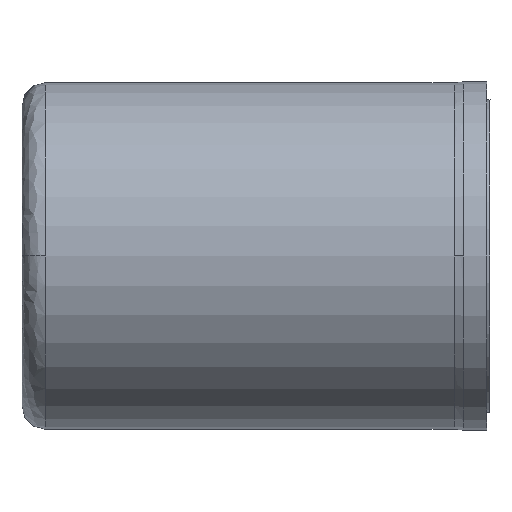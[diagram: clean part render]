
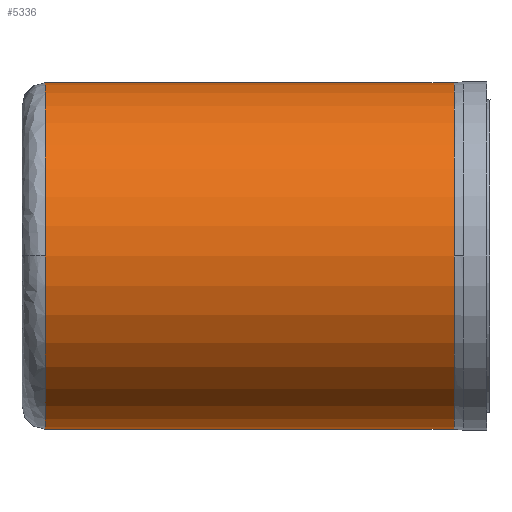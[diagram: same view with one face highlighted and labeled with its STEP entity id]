
A CAD part, front view. The second image highlights one B-rep face of the part: STEP entity #5336.
In plain terms, the highlighted cylindrical face has radius 18.55 mm (diameter 37.1 mm), a partial arc.
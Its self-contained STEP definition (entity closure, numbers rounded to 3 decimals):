
#2440 = CIRCLE ( 'NONE', #8687, 18.55 ) ;
#2703 = LINE ( 'NONE', #5919, #2706 ) ;
#2706 = VECTOR ( 'NONE', #5920, 1000. ) ;
#2909 = CIRCLE ( 'NONE', #8504, 18.55 ) ;
#3296 = CIRCLE ( 'NONE', #8483, 18.55 ) ;
#3400 = LINE ( 'NONE', #11714, #3404 ) ;
#3404 = VECTOR ( 'NONE', #11715, 1000. ) ;
#3461 = CIRCLE ( 'NONE', #8503, 18.55 ) ;
#4816 = EDGE_LOOP ( 'NONE', ( #15534, #15535, #15536, #15537, #15538, #15539 ) ) ;
#5336 = ADVANCED_FACE ( 'NONE', ( #14513 ), #14465, .T. ) ;
#5614 = CARTESIAN_POINT ( 'NONE',  ( -3.85, 0., 0. ) ) ;
#5615 = DIRECTION ( 'NONE',  ( -1., 0., 0. ) ) ;
#5616 = DIRECTION ( 'NONE',  ( 0., 0., -1. ) ) ;
#5919 = CARTESIAN_POINT ( 'NONE',  ( -26.975, 0., 18.55 ) ) ;
#5920 = DIRECTION ( 'NONE',  ( 1., 0., 0. ) ) ;
#7078 = CARTESIAN_POINT ( 'NONE',  ( -3.85, -18.55, 0. ) ) ;
#7135 = CARTESIAN_POINT ( 'NONE',  ( -47.6, 0., -18.55 ) ) ;
#7154 = CARTESIAN_POINT ( 'NONE',  ( -3.85, 0., -18.55 ) ) ;
#7178 = CARTESIAN_POINT ( 'NONE',  ( -47.6, 0., 18.55 ) ) ;
#7504 = CARTESIAN_POINT ( 'NONE',  ( -3.85, 0., 18.55 ) ) ;
#7544 = CARTESIAN_POINT ( 'NONE',  ( -47.6, -18.55, 0. ) ) ;
#7899 = AXIS2_PLACEMENT_3D ( 'NONE', #9934, #9933, #9929 ) ;
#8483 = AXIS2_PLACEMENT_3D ( 'NONE', #11765, #11766, #11767 ) ;
#8503 = AXIS2_PLACEMENT_3D ( 'NONE', #11679, #11680, #11681 ) ;
#8504 = AXIS2_PLACEMENT_3D ( 'NONE', #12101, #12103, #12105 ) ;
#8687 = AXIS2_PLACEMENT_3D ( 'NONE', #5614, #5615, #5616 ) ;
#9929 = DIRECTION ( 'NONE',  ( 0., 0., -1. ) ) ;
#9933 = DIRECTION ( 'NONE',  ( 1., 0., 0. ) ) ;
#9934 = CARTESIAN_POINT ( 'NONE',  ( -26.975, 0., 0. ) ) ;
#11679 = CARTESIAN_POINT ( 'NONE',  ( -3.85, 0., 0. ) ) ;
#11680 = DIRECTION ( 'NONE',  ( -1., 0., 0. ) ) ;
#11681 = DIRECTION ( 'NONE',  ( 0., 0., -1. ) ) ;
#11714 = CARTESIAN_POINT ( 'NONE',  ( -26.975, 0., -18.55 ) ) ;
#11715 = DIRECTION ( 'NONE',  ( 1., 0., 0. ) ) ;
#11765 = CARTESIAN_POINT ( 'NONE',  ( -47.6, 0., 0. ) ) ;
#11766 = DIRECTION ( 'NONE',  ( 1., 0., 0. ) ) ;
#11767 = DIRECTION ( 'NONE',  ( 0., 0., -1. ) ) ;
#12101 = CARTESIAN_POINT ( 'NONE',  ( -47.6, 0., 0. ) ) ;
#12103 = DIRECTION ( 'NONE',  ( 1., 0., 0. ) ) ;
#12105 = DIRECTION ( 'NONE',  ( 0., 0., -1. ) ) ;
#13001 = EDGE_CURVE ( 'NONE', #15692, #15616, #3461, .T. ) ;
#13074 = EDGE_CURVE ( 'NONE', #15673, #15692, #3400, .T. ) ;
#13147 = EDGE_CURVE ( 'NONE', #16081, #15673, #3296, .T. ) ;
#13281 = EDGE_CURVE ( 'NONE', #15716, #16081, #2909, .T. ) ;
#13498 = EDGE_CURVE ( 'NONE', #15616, #16042, #2440, .T. ) ;
#13589 = EDGE_CURVE ( 'NONE', #15716, #16042, #2703, .T. ) ;
#14465 = CYLINDRICAL_SURFACE ( 'NONE', #7899, 18.55 ) ;
#14513 = FACE_OUTER_BOUND ( 'NONE', #4816, .T. ) ;
#15534 = ORIENTED_EDGE ( 'NONE', *, *, #13589, .F. ) ;
#15535 = ORIENTED_EDGE ( 'NONE', *, *, #13281, .T. ) ;
#15536 = ORIENTED_EDGE ( 'NONE', *, *, #13147, .T. ) ;
#15537 = ORIENTED_EDGE ( 'NONE', *, *, #13074, .T. ) ;
#15538 = ORIENTED_EDGE ( 'NONE', *, *, #13001, .T. ) ;
#15539 = ORIENTED_EDGE ( 'NONE', *, *, #13498, .T. ) ;
#15616 = VERTEX_POINT ( 'NONE', #7078 ) ;
#15673 = VERTEX_POINT ( 'NONE', #7135 ) ;
#15692 = VERTEX_POINT ( 'NONE', #7154 ) ;
#15716 = VERTEX_POINT ( 'NONE', #7178 ) ;
#16042 = VERTEX_POINT ( 'NONE', #7504 ) ;
#16081 = VERTEX_POINT ( 'NONE', #7544 ) ;
